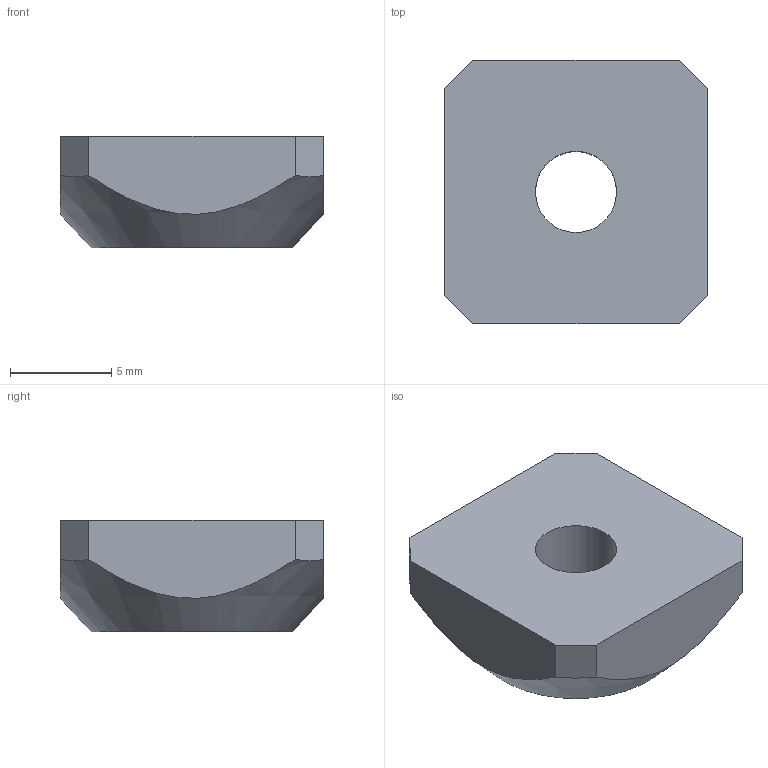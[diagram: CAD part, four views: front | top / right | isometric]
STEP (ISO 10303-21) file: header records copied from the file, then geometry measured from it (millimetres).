
FILE_DESCRIPTION((''),'2;1');
FILE_NAME('C:\Documents and Settings\Administrator\My Documents\Andys Backup Data\STEP LIBRARIES\MINITEC STEP LIBRARIES\FASTENING ELEMENTS\NUTS\21.1310 M4 SQUARE NUT.stp','2008-10-29T15:00:09',('Administrator'),(''),'Autodesk Inventor 2009','Autodesk Inventor 2009','');
FILE_SCHEMA(('AUTOMOTIVE_DESIGN { 1 0 10303 214 1 1 1 1 }'));
Length unit declared in the file: millimetre
Products named in the file (1): 21.1310 M4
Bounding box: 13 x 13 x 5.5 mm (x, y, z)
Volume: 715.2 mm3; surface area: 561.2 mm2
Topology: 1 solids, 1 shells, 12 faces, 30 edges, 20 vertices
Faces by surface type: plane 10, cone 1, cylinder 1
Full cylindrical faces by diameter (mm): 4 x1
Entity records: 360 total; most frequent: CARTESIAN_POINT 75, ORIENTED_EDGE 54, DIRECTION 48, EDGE_CURVE 27, VERTEX_POINT 19, AXIS2_PLACEMENT_3D 16, EDGE_LOOP 16, VECTOR 16
